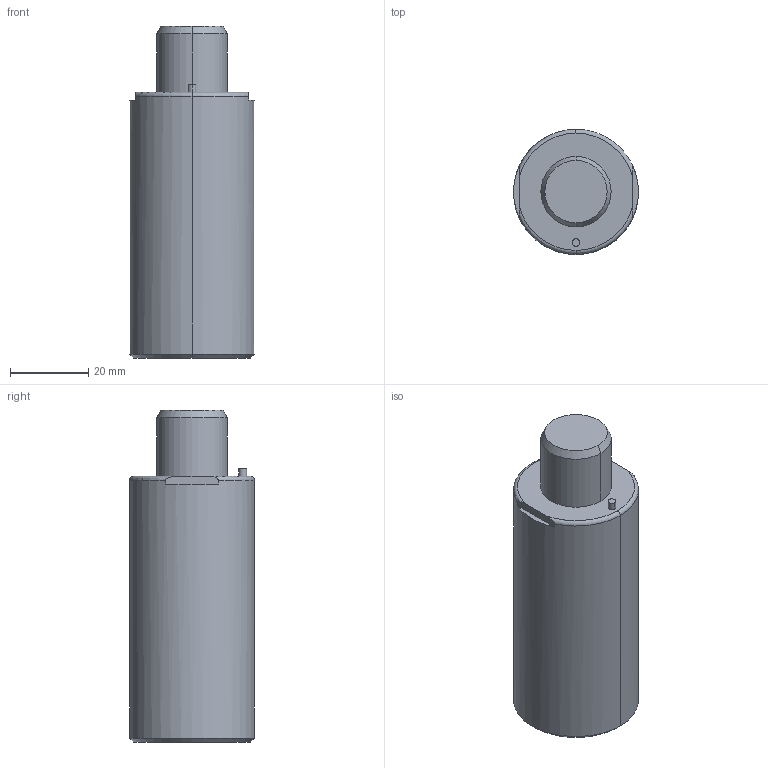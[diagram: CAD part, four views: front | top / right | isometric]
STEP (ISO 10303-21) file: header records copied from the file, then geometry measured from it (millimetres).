
FILE_DESCRIPTION(/* description */ (''),/* implementation_level */ '2;1');
FILE_NAME(/* name */ '3d_gsx32-15_03996_r00.stp',/* time_stamp */ '2011-01-10T14:15:14+09:00',/* author */ ('MISUMI'),/* organization */ (''),/* preprocessor_version */ 'ST-DEVELOPER v11',/* originating_system */ 'UGS - NX 5.0',/* authorisation */ '');
FILE_SCHEMA (('CONFIG_CONTROL_DESIGN'));
Length unit declared in the file: millimetre
Products named in the file (1): 3d_gsx32-15_03996_r00
Bounding box: 32 x 32 x 85 mm (x, y, z)
Volume: 57574.6 mm3; surface area: 10159.8 mm2
Topology: 1 solids, 1 shells, 45 faces, 98 edges, 60 vertices
Faces by surface type: cylinder 20, plane 13, cone 8, torus 4
Entity records: 1324 total; most frequent: DIRECTION 236, CARTESIAN_POINT 228, ORIENTED_EDGE 188, AXIS2_PLACEMENT_3D 100, EDGE_CURVE 94, VERTEX_POINT 60, EDGE_LOOP 54, CIRCLE 54
